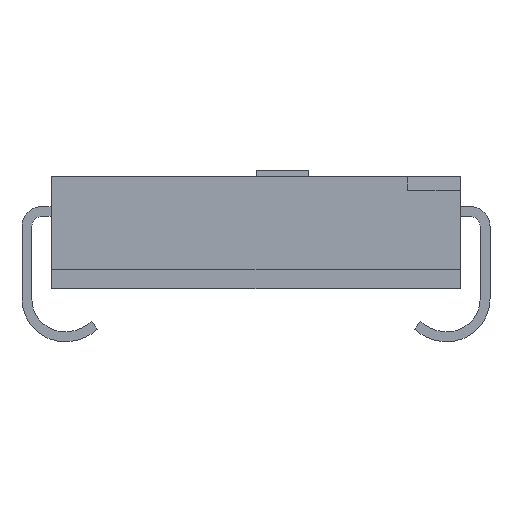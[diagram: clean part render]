
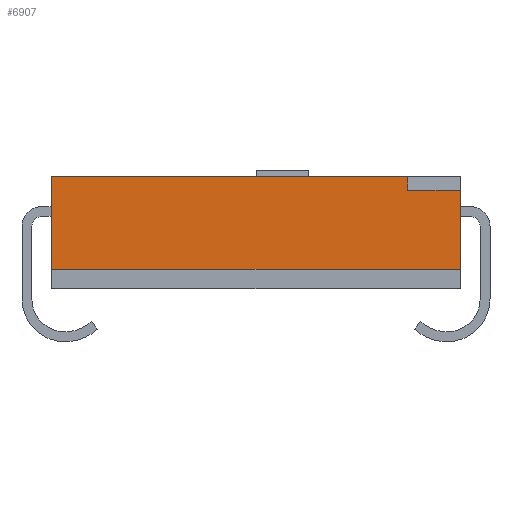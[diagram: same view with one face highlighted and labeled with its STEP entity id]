
A CAD part, left-side view. The second image highlights one B-rep face of the part: STEP entity #6907.
In plain terms, the highlighted planar face has unit normal (-1, 0, 0).
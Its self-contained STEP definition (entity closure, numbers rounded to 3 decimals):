
#2=DIRECTION('',(0.,-1.,0.));
#3=VECTOR('',#2,6.2);
#4=CARTESIAN_POINT('',(-6.915,3.1,0.));
#5=LINE('',#4,#3);
#58=DIRECTION('',(0.,1.,0.));
#59=VECTOR('',#58,0.8);
#60=CARTESIAN_POINT('',(-6.915,-3.1,1.2));
#61=LINE('',#60,#59);
#62=DIRECTION('',(0.,0.,1.));
#63=VECTOR('',#62,1.4);
#64=CARTESIAN_POINT('',(-6.915,3.1,0.));
#65=LINE('',#64,#63);
#66=DIRECTION('',(0.,0.,-1.));
#67=VECTOR('',#66,0.2);
#68=CARTESIAN_POINT('',(-6.915,-2.3,1.4));
#69=LINE('',#68,#67);
#158=DIRECTION('',(0.,-1.,0.));
#159=VECTOR('',#158,5.4);
#160=CARTESIAN_POINT('',(-6.915,3.1,1.4));
#161=LINE('',#160,#159);
#370=DIRECTION('',(0.,0.,1.));
#371=VECTOR('',#370,1.2);
#372=CARTESIAN_POINT('',(-6.915,-3.1,0.));
#373=LINE('',#372,#371);
#5210=CARTESIAN_POINT('',(-6.915,3.1,0.));
#5211=CARTESIAN_POINT('',(-6.915,-3.1,0.));
#5212=VERTEX_POINT('',#5210);
#5213=VERTEX_POINT('',#5211);
#5222=CARTESIAN_POINT('',(-6.915,3.1,1.4));
#5223=VERTEX_POINT('',#5222);
#6002=CARTESIAN_POINT('',(-6.915,-2.3,1.4));
#6004=VERTEX_POINT('',#6002);
#6005=CARTESIAN_POINT('',(-6.915,-3.1,1.2));
#6006=CARTESIAN_POINT('',(-6.915,-2.3,1.2));
#6007=VERTEX_POINT('',#6005);
#6008=VERTEX_POINT('',#6006);
#6889=CARTESIAN_POINT('',(-6.915,3.1,0.));
#6890=DIRECTION('',(-1.,0.,0.));
#6891=DIRECTION('',(0.,-1.,0.));
#6892=AXIS2_PLACEMENT_3D('',#6889,#6890,#6891);
#6893=PLANE('',#6892);
#6895=ORIENTED_EDGE('',*,*,#6894,.F.);
#6897=ORIENTED_EDGE('',*,*,#6896,.F.);
#6898=ORIENTED_EDGE('',*,*,#6852,.F.);
#6900=ORIENTED_EDGE('',*,*,#6899,.T.);
#6902=ORIENTED_EDGE('',*,*,#6901,.T.);
#6904=ORIENTED_EDGE('',*,*,#6903,.T.);
#6905=EDGE_LOOP('',(#6895,#6897,#6898,#6900,#6902,#6904));
#6906=FACE_OUTER_BOUND('',#6905,.F.);
#6907=ADVANCED_FACE('',(#6906),#6893,.T.);
#6852=EDGE_CURVE('',#5212,#5213,#5,.T.);
#6894=EDGE_CURVE('',#6007,#6008,#61,.T.);
#6896=EDGE_CURVE('',#5213,#6007,#373,.T.);
#6899=EDGE_CURVE('',#5212,#5223,#65,.T.);
#6901=EDGE_CURVE('',#5223,#6004,#161,.T.);
#6903=EDGE_CURVE('',#6004,#6008,#69,.T.);
